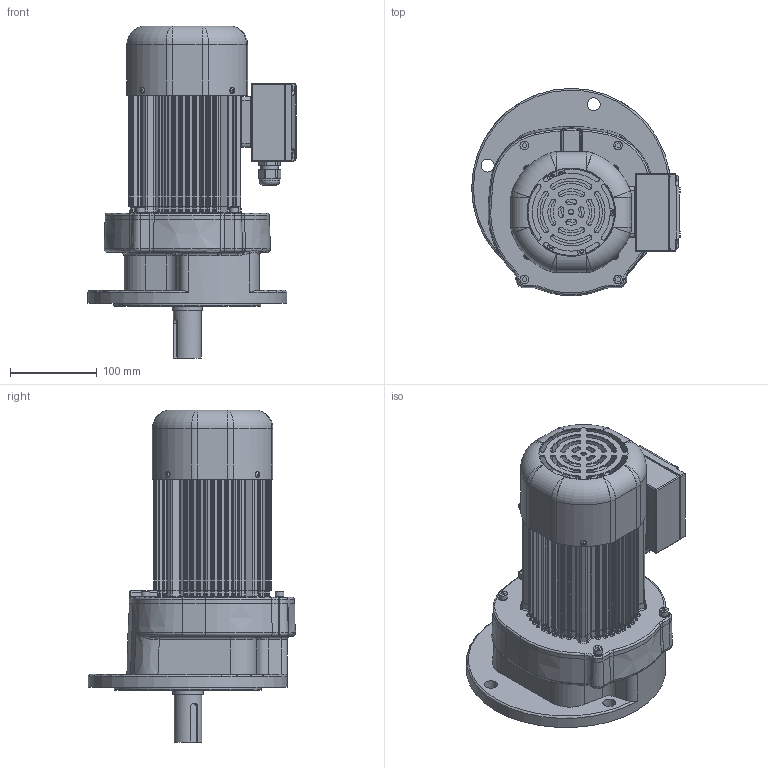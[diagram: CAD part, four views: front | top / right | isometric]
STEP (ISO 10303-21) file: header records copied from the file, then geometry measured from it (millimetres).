
FILE_DESCRIPTION(/* description */ (''),/* implementation_level */ '2;1');
FILE_NAME(/* name */ 'Z:\동력 3D 파일\PMK135_0.4kW_Brake_3D.stp',/* time_stamp */ '2021-11-18T16:35:13+09:00',/* author */ ('jaebok'),/* organization */ (''),/* preprocessor_version */ 'ST-DEVELOPER v18.1',/* originating_system */ 'Autodesk Inventor 2022',/* authorisation */ '');
FILE_SCHEMA (('AUTOMOTIVE_DESIGN { 1 0 10303 214 3 1 1 }'));
Products named in the file (1): 부품9
Bounding box: 241 x 239.45 x 383.5 mm (x, y, z)
Volume: 2453973.5 mm3; surface area: 719157.8 mm2
Topology: 2 solids, 32 shells, 3291 faces, 8262 edges, 4961 vertices
Faces by surface type: plane 1124, cylinder 973, bspline 667, torus 275, cone 158, sphere 94
Full cylindrical faces by diameter (mm): 1.5 x2, 2 x4, 3 x8, 3.242 x4, 3.25 x1, 3.3 x4, 3.6 x4, 3.8 x3, 4 x25, 4.2 x8, 4.917 x3, 5 x25, 5.8 x2, 5.9 x3, 6 x22, 6.4 x1, 6.5 x6, 6.8 x4, 7 x12, 7.9 x6, 8 x4, 8.5 x1, 8.7 x1, 9.5 x4, 10 x5, 12 x1, 12.5 x1, 15 x5, 18 x1, 19 x1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
Entity records: 128263 total; most frequent: CARTESIAN_POINT 50388, ORIENTED_EDGE 16092, DIRECTION 14952, EDGE_CURVE 8046, AXIS2_PLACEMENT_3D 5981, VERTEX_POINT 4959, EDGE_LOOP 3567, FACE_OUTER_BOUND 3291
